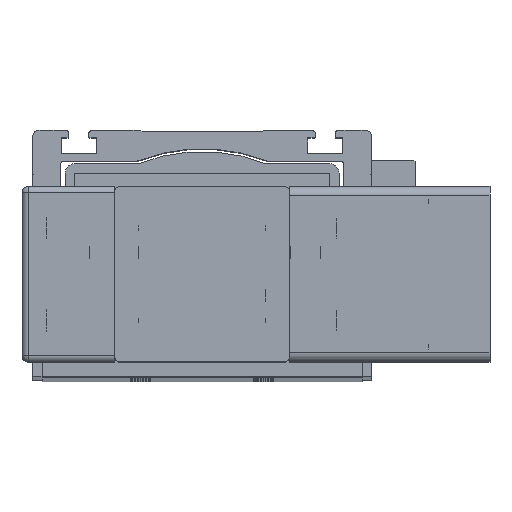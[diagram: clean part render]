
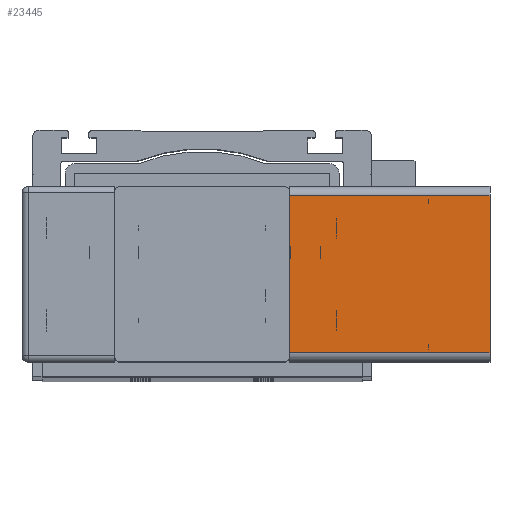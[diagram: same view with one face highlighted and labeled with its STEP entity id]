
A CAD part, top view. The second image highlights one B-rep face of the part: STEP entity #23445.
In plain terms, the highlighted planar face has unit normal (0, 0, 1) as drawn and (-1, 0, 0) by its records, which use the part's own axes.
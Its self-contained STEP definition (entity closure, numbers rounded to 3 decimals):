
#23179=CARTESIAN_POINT('',(0.0,54.0,0.0));
#23180=VERTEX_POINT('',#23179);
#23188=CARTESIAN_POINT('',(0.0,3.,0.0));
#23189=VERTEX_POINT('',#23188);
#23190=CARTESIAN_POINT('',(0.0,54.0,0.0));
#23191=DIRECTION('',(0.0,-1.0,0.0));
#23192=VECTOR('',#23191,51.0);
#23193=LINE('',#23190,#23192);
#23194=EDGE_CURVE('',#23180,#23189,#23193,.T.);
#23328=CARTESIAN_POINT('',(0.0,3.,-65.0));
#23329=VERTEX_POINT('',#23328);
#23346=CARTESIAN_POINT('',(0.0,3.,0.0));
#23347=DIRECTION('',(0.0,0.0,-1.0));
#23348=VECTOR('',#23347,65.0);
#23349=LINE('',#23346,#23348);
#23350=EDGE_CURVE('',#23189,#23329,#23349,.T.);
#23404=CARTESIAN_POINT('',(0.0,54.0,-65.0));
#23405=VERTEX_POINT('',#23404);
#23413=CARTESIAN_POINT('',(0.0,54.0,-65.0));
#23414=DIRECTION('',(0.0,0.0,1.0));
#23415=VECTOR('',#23414,65.0);
#23416=LINE('',#23413,#23415);
#23417=EDGE_CURVE('',#23405,#23180,#23416,.T.);
#23429=CARTESIAN_POINT('',(0.0,57.0,0.0));
#23430=DIRECTION('',(-1.0,0.0,0.0));
#23431=DIRECTION('',(0.0,0.0,1.0));
#23432=AXIS2_PLACEMENT_3D('',#23429,#23430,#23431);
#23433=PLANE('',#23432);
#23434=ORIENTED_EDGE('',*,*,#23350,.F.);
#23435=ORIENTED_EDGE('',*,*,#23194,.F.);
#23436=ORIENTED_EDGE('',*,*,#23417,.F.);
#23437=CARTESIAN_POINT('',(0.0,54.0,-65.0));
#23438=DIRECTION('',(0.0,-1.0,0.0));
#23439=VECTOR('',#23438,51.0);
#23440=LINE('',#23437,#23439);
#23441=EDGE_CURVE('',#23405,#23329,#23440,.T.);
#23442=ORIENTED_EDGE('',*,*,#23441,.T.);
#23443=EDGE_LOOP('',(#23434,#23435,#23436,#23442));
#23444=FACE_OUTER_BOUND('',#23443,.T.);
#23445=ADVANCED_FACE('',(#23444),#23433,.T.);
